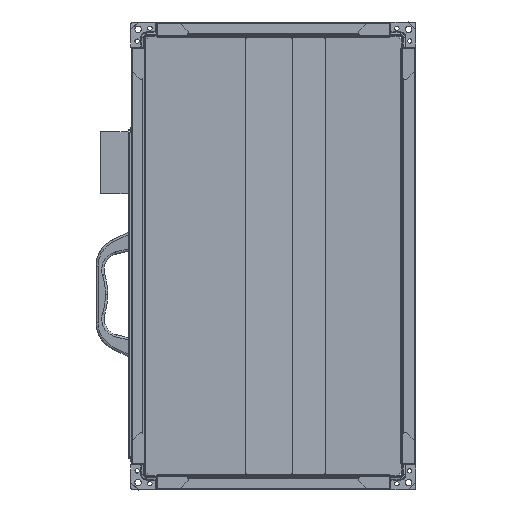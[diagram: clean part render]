
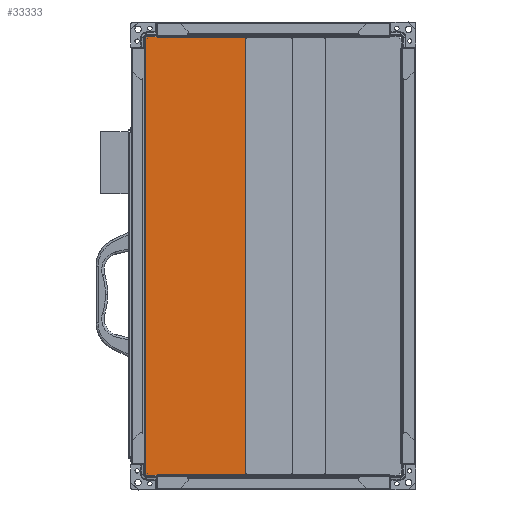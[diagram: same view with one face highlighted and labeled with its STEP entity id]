
A CAD part, left-side view. The second image highlights one B-rep face of the part: STEP entity #33333.
In plain terms, the highlighted planar face has unit normal (-1, 0, 0).
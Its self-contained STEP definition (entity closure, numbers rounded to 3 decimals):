
#1977=FACE_OUTER_BOUND('',#3729,.T.);
#3729=EDGE_LOOP('',(#22170,#22171,#22172,#22173,#22174,#22175,#22176,#22177,
#22178,#22179,#22180,#22181));
#6876=LINE('',#49530,#10062);
#6923=LINE('',#49631,#10109);
#6925=LINE('',#49636,#10111);
#6929=LINE('',#49644,#10115);
#6993=LINE('',#49760,#10179);
#6994=LINE('',#49761,#10180);
#6995=LINE('',#49763,#10181);
#6996=LINE('',#49764,#10182);
#6997=LINE('',#49766,#10183);
#6998=LINE('',#49768,#10184);
#6999=LINE('',#49770,#10185);
#7000=LINE('',#49771,#10186);
#10062=VECTOR('',#38413,10.);
#10109=VECTOR('',#38488,10.);
#10111=VECTOR('',#38492,10.);
#10115=VECTOR('',#38498,10.);
#10179=VECTOR('',#38590,10.);
#10180=VECTOR('',#38591,10.);
#10181=VECTOR('',#38592,10.);
#10182=VECTOR('',#38593,10.);
#10183=VECTOR('',#38594,10.);
#10184=VECTOR('',#38595,10.);
#10185=VECTOR('',#38596,10.);
#10186=VECTOR('',#38597,10.);
#13209=VERTEX_POINT('',#49527);
#13210=VERTEX_POINT('',#49529);
#13249=VERTEX_POINT('',#49628);
#13250=VERTEX_POINT('',#49630);
#13251=VERTEX_POINT('',#49634);
#13252=VERTEX_POINT('',#49635);
#13255=VERTEX_POINT('',#49643);
#13293=VERTEX_POINT('',#49759);
#13294=VERTEX_POINT('',#49762);
#13295=VERTEX_POINT('',#49765);
#13296=VERTEX_POINT('',#49767);
#13297=VERTEX_POINT('',#49769);
#16593=EDGE_CURVE('',#13209,#13210,#6876,.T.);
#16640=EDGE_CURVE('',#13249,#13250,#6923,.T.);
#16642=EDGE_CURVE('',#13251,#13252,#6925,.T.);
#16646=EDGE_CURVE('',#13252,#13255,#6929,.T.);
#16710=EDGE_CURVE('',#13293,#13250,#6993,.T.);
#16711=EDGE_CURVE('',#13255,#13249,#6994,.T.);
#16712=EDGE_CURVE('',#13251,#13294,#6995,.T.);
#16713=EDGE_CURVE('',#13294,#13210,#6996,.T.);
#16714=EDGE_CURVE('',#13295,#13209,#6997,.T.);
#16715=EDGE_CURVE('',#13296,#13295,#6998,.T.);
#16716=EDGE_CURVE('',#13297,#13296,#6999,.T.);
#16717=EDGE_CURVE('',#13297,#13293,#7000,.T.);
#22170=ORIENTED_EDGE('',*,*,#16710,.T.);
#22171=ORIENTED_EDGE('',*,*,#16640,.F.);
#22172=ORIENTED_EDGE('',*,*,#16711,.F.);
#22173=ORIENTED_EDGE('',*,*,#16646,.F.);
#22174=ORIENTED_EDGE('',*,*,#16642,.F.);
#22175=ORIENTED_EDGE('',*,*,#16712,.T.);
#22176=ORIENTED_EDGE('',*,*,#16713,.T.);
#22177=ORIENTED_EDGE('',*,*,#16593,.F.);
#22178=ORIENTED_EDGE('',*,*,#16714,.F.);
#22179=ORIENTED_EDGE('',*,*,#16715,.F.);
#22180=ORIENTED_EDGE('',*,*,#16716,.F.);
#22181=ORIENTED_EDGE('',*,*,#16717,.T.);
#31134=PLANE('',#35168);
#33333=ADVANCED_FACE('',(#1977),#31134,.F.);
#35168=AXIS2_PLACEMENT_3D('',#49758,#38588,#38589);
#38413=DIRECTION('',(0.,0.,-1.));
#38488=DIRECTION('',(0.,0.,1.));
#38492=DIRECTION('',(0.,1.,0.));
#38498=DIRECTION('',(0.,0.,1.));
#38588=DIRECTION('center_axis',(1.,0.,0.));
#38589=DIRECTION('ref_axis',(0.,-1.,0.));
#38590=DIRECTION('',(0.,1.,0.));
#38591=DIRECTION('',(0.,-1.,0.));
#38592=DIRECTION('',(0.,0.,-1.));
#38593=DIRECTION('',(0.,-1.,0.));
#38594=DIRECTION('',(0.,1.,0.));
#38595=DIRECTION('',(0.,0.,-1.));
#38596=DIRECTION('',(0.,-1.,0.));
#38597=DIRECTION('',(0.,0.,1.));
#49527=CARTESIAN_POINT('',(14.935,-149.667,-13.5));
#49529=CARTESIAN_POINT('',(14.935,-149.667,-15.5));
#49530=CARTESIAN_POINT('',(14.935,-149.667,134.75));
#49628=CARTESIAN_POINT('',(14.935,-15.74,581.5));
#49630=CARTESIAN_POINT('',(14.935,-15.74,583.5));
#49631=CARTESIAN_POINT('',(14.935,-15.74,433.25));
#49634=CARTESIAN_POINT('',(14.935,-15.74,-13.5));
#49635=CARTESIAN_POINT('',(14.935,-13.74,-13.5));
#49636=CARTESIAN_POINT('',(14.935,-14.764,-13.5));
#49643=CARTESIAN_POINT('',(14.935,-13.74,581.5));
#49644=CARTESIAN_POINT('',(14.935,-13.74,432.75));
#49758=CARTESIAN_POINT('Origin',(14.935,-82.269,284.));
#49759=CARTESIAN_POINT('',(14.935,-149.667,583.5));
#49760=CARTESIAN_POINT('',(14.935,-82.486,583.5));
#49761=CARTESIAN_POINT('',(14.935,-14.764,581.5));
#49762=CARTESIAN_POINT('',(14.935,-15.74,-15.5));
#49763=CARTESIAN_POINT('',(14.935,-15.74,134.25));
#49764=CARTESIAN_POINT('',(14.935,-82.486,-15.5));
#49765=CARTESIAN_POINT('',(14.935,-150.495,-13.5));
#49766=CARTESIAN_POINT('',(14.935,-148.263,-13.5));
#49767=CARTESIAN_POINT('',(14.935,-150.495,581.5));
#49768=CARTESIAN_POINT('',(14.935,-150.495,284.));
#49769=CARTESIAN_POINT('',(14.935,-149.667,581.5));
#49770=CARTESIAN_POINT('',(14.935,-116.675,581.5));
#49771=CARTESIAN_POINT('',(14.935,-149.667,433.75));
